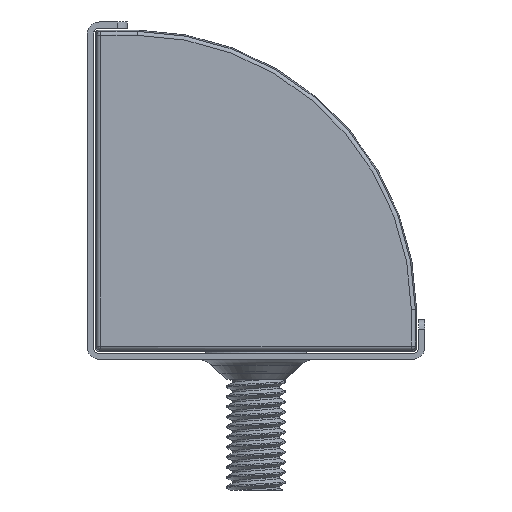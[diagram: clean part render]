
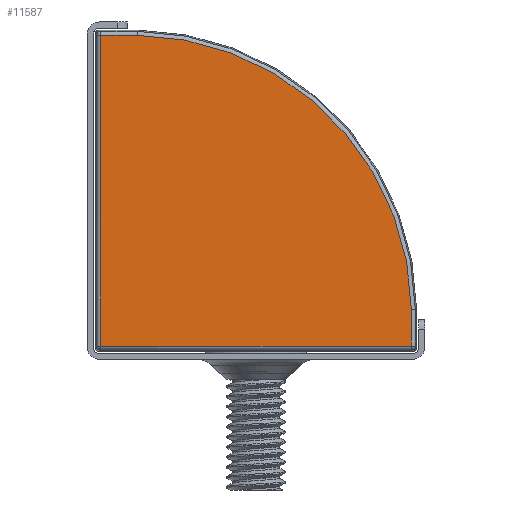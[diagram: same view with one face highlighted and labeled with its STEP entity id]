
A CAD part, front view. The second image highlights one B-rep face of the part: STEP entity #11587.
In plain terms, the highlighted planar face has unit normal (0, -1, 0).
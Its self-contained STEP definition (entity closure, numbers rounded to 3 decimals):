
#822=CIRCLE('',#12814,13.837);
#1833=FACE_OUTER_BOUND('',#2564,.T.);
#2564=EDGE_LOOP('',(#9705,#9706,#9707,#9708,#9709));
#3448=LINE('',#21436,#4381);
#3452=LINE('',#21509,#4385);
#3455=LINE('',#21513,#4388);
#3457=LINE('',#21542,#4390);
#4381=VECTOR('',#15677,10.);
#4385=VECTOR('',#15701,10.);
#4388=VECTOR('',#15706,10.);
#4390=VECTOR('',#15710,10.);
#5392=VERTEX_POINT('',#21397);
#5397=VERTEX_POINT('',#21410);
#5399=VERTEX_POINT('',#21441);
#5401=VERTEX_POINT('',#21470);
#5406=VERTEX_POINT('',#21483);
#6853=EDGE_CURVE('',#5397,#5392,#3448,.T.);
#6857=EDGE_CURVE('',#5399,#5397,#822,.T.);
#6865=EDGE_CURVE('',#5406,#5401,#3452,.T.);
#6868=EDGE_CURVE('',#5401,#5399,#3455,.T.);
#6871=EDGE_CURVE('',#5392,#5406,#3457,.T.);
#9705=ORIENTED_EDGE('',*,*,#6865,.F.);
#9706=ORIENTED_EDGE('',*,*,#6871,.F.);
#9707=ORIENTED_EDGE('',*,*,#6853,.F.);
#9708=ORIENTED_EDGE('',*,*,#6857,.F.);
#9709=ORIENTED_EDGE('',*,*,#6868,.F.);
#11030=PLANE('',#12828);
#11587=ADVANCED_FACE('',(#1833),#11030,.T.);
#12814=AXIS2_PLACEMENT_3D('',#21467,#15683,#15684);
#12828=AXIS2_PLACEMENT_3D('',#21573,#15723,#15724);
#15677=DIRECTION('',(0.,0.,-1.));
#15683=DIRECTION('center_axis',(0.,1.,0.));
#15684=DIRECTION('ref_axis',(0.707,0.,0.707));
#15701=DIRECTION('',(0.,0.,1.));
#15706=DIRECTION('',(1.,0.,-0.001));
#15710=DIRECTION('',(-1.,0.,0.));
#15723=DIRECTION('center_axis',(0.,-1.,0.));
#15724=DIRECTION('ref_axis',(1.,0.,0.));
#21397=CARTESIAN_POINT('',(15.736,-2.1,0.263));
#21410=CARTESIAN_POINT('',(15.736,-2.1,2.101));
#21436=CARTESIAN_POINT('',(15.736,-2.1,5.051));
#21441=CARTESIAN_POINT('',(2.101,-2.1,15.736));
#21467=CARTESIAN_POINT('Origin',(1.9,-2.1,1.9));
#21470=CARTESIAN_POINT('',(0.263,-2.1,15.737));
#21483=CARTESIAN_POINT('',(0.263,-2.1,0.263));
#21509=CARTESIAN_POINT('',(0.263,-2.1,4.1));
#21513=CARTESIAN_POINT('',(4.002,-2.1,15.734));
#21542=CARTESIAN_POINT('',(11.999,-2.1,0.263));
#21573=CARTESIAN_POINT('Origin',(7.999,-2.1,8.));
